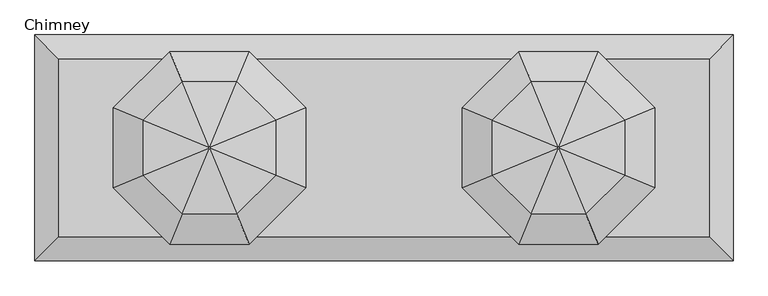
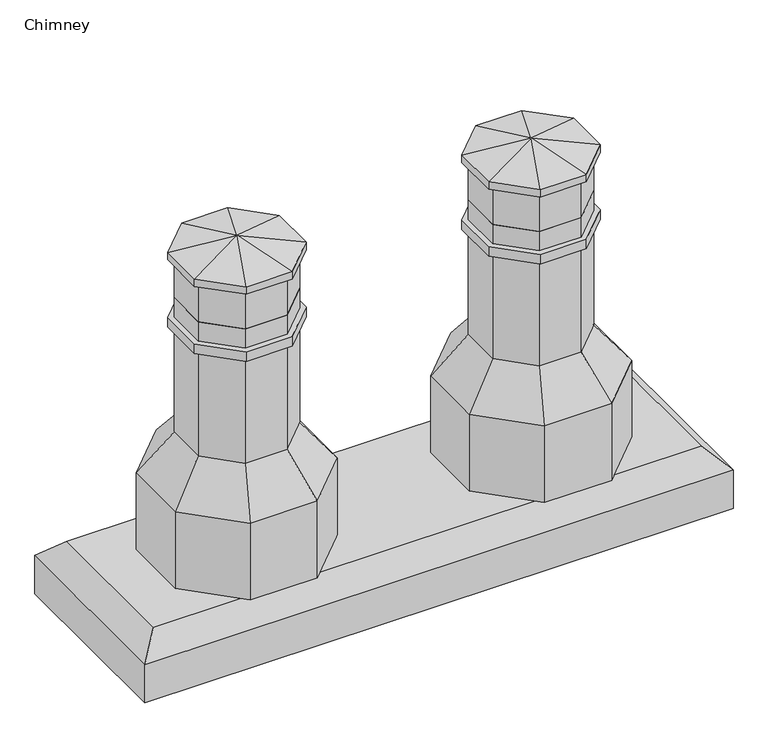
"""IFC4 building model written with IfcOpenShell, lengths in millimetres: proxy geometry, Chimney : 2 Chimney Pots."""

import ifcopenshell
import ifcopenshell.guid

model = None  # the IFC model being written
_history = None  # IfcOwnerHistory: only IFC2X3 demands one
_inside = {}  # id of a spatial element -> (the spatial element, [elements in it])
_under = {}  # id of a project, library or spatial element -> (it, [spatial elements below it])
_declared = {}  # id of a project -> (the project, [libraries it declares])
_typed = {}  # id of a type object -> (the type object, [elements of that type])
_made_of = {}  # id of a material, layer set ... -> (it, [elements and type objects made of it])


def new_model(schema):
    """Start an empty IFC model of exactly this schema.

    Asked for "IFC4X3", IfcOpenShell would pick the latest addendum, in which some entities
    have other attributes; the version numbers below select the first issue.
    IFC2X3 requires an IfcOwnerHistory on every rooted entity: one is made here for all.
    """
    global model, _history
    if schema == "IFC4X3":
        model = ifcopenshell.file(schema_version=(4, 3, 0, 0))
    else:
        model = ifcopenshell.file(schema=schema)
    _inside.clear()
    _under.clear()
    _declared.clear()
    _typed.clear()
    _made_of.clear()
    _history = None
    if model.schema == "IFC2X3":
        org = make("IfcOrganization", Name="unknown")
        user = make(
            "IfcPersonAndOrganization",
            ThePerson=make("IfcPerson", FamilyName="unknown"),
            TheOrganization=org,
        )
        app = make(
            "IfcApplication",
            ApplicationDeveloper=org,
            Version="unknown",
            ApplicationFullName="unknown",
            ApplicationIdentifier="unknown",
        )
        _history = make(
            "IfcOwnerHistory",
            OwningUser=user,
            OwningApplication=app,
            ChangeAction="ADDED",
            CreationDate=0,
        )
    return model


def make(cls, **values):
    """One entity of the class cls with the attributes given. An attribute that is None is left unset."""
    return model.create_entity(
        cls, **{name: value for name, value in values.items() if value is not None}
    )


def rooted(cls, **values):
    """An entity with a GlobalId (a new one), such as an element, a storey or a relation."""
    return make(cls, GlobalId=ifcopenshell.guid.new(), OwnerHistory=_history, **values)


def si_unit(unit_type, name, prefix=None):
    """IfcSIUnit, for example si_unit("LENGTHUNIT", "METRE", prefix="MILLI")."""
    return make("IfcSIUnit", UnitType=unit_type, Prefix=prefix, Name=name)


def assignment(units):
    """IfcUnitAssignment: the units of a project."""
    return None if units is None else make("IfcUnitAssignment", Units=units)


def point(xyz):
    """IfcCartesianPoint."""
    return None if xyz is None else make("IfcCartesianPoint", Coordinates=xyz)


def direction(xyz):
    """IfcDirection."""
    return None if xyz is None else make("IfcDirection", DirectionRatios=xyz)


def frame(location, z_axis=None, x_axis=None):
    """IfcAxis2Placement3D, a coordinate frame: its origin and axes. An axis left out is left unset."""
    return make(
        "IfcAxis2Placement3D",
        Location=point(location),
        Axis=direction(z_axis),
        RefDirection=direction(x_axis),
    )


def origin():
    """The frame at (0, 0, 0) with its axes left unset."""
    return frame((0.0, 0.0, 0.0))


def place(relative_to, where):
    """IfcLocalPlacement: puts the frame where relative to a parent placement (None: the world)."""
    return make(
        "IfcLocalPlacement", PlacementRelTo=relative_to, RelativePlacement=where
    )


def context(
    kind, dimensions, precision=None, world=None, true_north=None, identifier=None
):
    """IfcGeometricRepresentationContext, for example the 3D "Model" context."""
    return make(
        "IfcGeometricRepresentationContext",
        ContextIdentifier=identifier,
        ContextType=kind,
        CoordinateSpaceDimension=dimensions,
        Precision=precision,
        WorldCoordinateSystem=world,
        TrueNorth=true_north,
    )


def project(units=None, contexts=None):
    """IfcProject with its units and contexts."""
    return rooted(
        "IfcProject",
        Name="project",
        RepresentationContexts=contexts,
        UnitsInContext=assignment(units),
    )


def spatial(cls, under=None, at=None, **own):
    """A site, building, storey or space (cls), placed at a placement, below another one or the project."""
    s = rooted(cls, ObjectPlacement=at, **own)
    if under is not None:
        _under.setdefault(under.id(), (under, []))[1].append(s)
    return s


def polyline(points):
    """IfcPolyline through the points."""
    return make("IfcPolyline", Points=[point(p) for p in points])


def circle_curve(where, radius):
    """IfcCircle in the frame where."""
    return make("IfcCircle", Position=where, Radius=radius)


def outline(outer, holes=None, kind="AREA"):
    """IfcArbitraryClosedProfileDef: a profile drawn as a closed curve; with holes, ...WithVoids."""
    if holes is None:
        return make("IfcArbitraryClosedProfileDef", ProfileType=kind, OuterCurve=outer)
    return make(
        "IfcArbitraryProfileDefWithVoids",
        ProfileType=kind,
        OuterCurve=outer,
        InnerCurves=holes,
    )


def extrude(swept, where, along, depth):
    """IfcExtrudedAreaSolid: the profile swept, set in the frame where, extruded along a direction by depth."""
    return make(
        "IfcExtrudedAreaSolid",
        SweptArea=swept,
        Position=where,
        ExtrudedDirection=direction(along),
        Depth=depth,
    )


def faces_of(points, faces, orient=None, outer=None):
    """IfcFace entities. A face is a list of loops; a loop is a list of indices into points, from 0.

    orient and outer hold one flag for each loop. By default every Orientation is true, the
    first loop of a face is its IfcFaceOuterBound and the others are IfcFaceBound.
    """
    made = []
    for i, loops in enumerate(faces):
        bounds = []
        for j, loop in enumerate(loops):
            is_outer = j == 0 if outer is None else outer[i][j]
            bounds.append(
                make(
                    "IfcFaceOuterBound" if is_outer else "IfcFaceBound",
                    Bound=make("IfcPolyLoop", Polygon=[points[k] for k in loop]),
                    Orientation=True if orient is None else orient[i][j],
                )
            )
        made.append(make("IfcFace", Bounds=bounds))
    return made


def faceted_brep(points, faces, orient=None, outer=None, voids=None):
    """IfcFacetedBrep: a solid bounded by flat faces; with voids (closed shells), ...WithVoids."""
    shared = [point(p) for p in points]
    hull = make("IfcClosedShell", CfsFaces=faces_of(shared, faces, orient, outer))
    if voids is None:
        return make("IfcFacetedBrep", Outer=hull)
    return make(
        "IfcFacetedBrepWithVoids",
        Outer=hull,
        Voids=[
            make(cls, CfsFaces=faces_of(shared, fs, o, b)) for cls, fs, o, b in voids
        ],
    )


def shape(context_of_items, identifier, shape_type, items):
    """IfcShapeRepresentation: the items that make up one representation, for example the "Body"."""
    return make(
        "IfcShapeRepresentation",
        ContextOfItems=context_of_items,
        RepresentationIdentifier=identifier,
        RepresentationType=shape_type,
        Items=items,
    )


def source(mapping_origin, context_of_items, identifier, shape_type, items):
    """IfcRepresentationMap: a shape defined once, which mapped items show again and again."""
    return make(
        "IfcRepresentationMap",
        MappingOrigin=mapping_origin,
        MappedRepresentation=shape(context_of_items, identifier, shape_type, items),
    )


def transform(
    local_origin,
    x_axis=None,
    y_axis=None,
    z_axis=None,
    scale=None,
    scale2=None,
    scale3=None,
    uniform=True,
):
    """IfcCartesianTransformationOperator3D, or its non-uniform kind. x_axis, y_axis, z_axis: its Axis1, 2, 3."""
    if uniform:
        return make(
            "IfcCartesianTransformationOperator3D",
            Axis1=direction(x_axis),
            Axis2=direction(y_axis),
            LocalOrigin=point(local_origin),
            Scale=scale,
            Axis3=direction(z_axis),
        )
    return make(
        "IfcCartesianTransformationOperator3DnonUniform",
        Axis1=direction(x_axis),
        Axis2=direction(y_axis),
        LocalOrigin=point(local_origin),
        Scale=scale,
        Axis3=direction(z_axis),
        Scale2=scale2,
        Scale3=scale3,
    )


def mapped(mapping_source, mapping_target):
    """IfcMappedItem: shows the shape of a source again, moved by a transform."""
    return make(
        "IfcMappedItem", MappingSource=mapping_source, MappingTarget=mapping_target
    )


def made_of(thing, what):
    """Note that an element or type object is made of a material, layer set ...; save() writes the relation."""
    if what is not None:
        _made_of.setdefault(what.id(), (what, []))[1].append(thing)
    return thing


def element(
    cls,
    number,
    at=None,
    inside=None,
    cuts=None,
    type_object=None,
    material=None,
    context=None,
    identifier="Body",
    shape_type=None,
    held_by="IfcProductDefinitionShape",
    body=None,
    shapes=None,
    **own,
):
    """One element of the class cls, such as IfcWall. Its Tag is "e" and its number.

    at: its placement. inside: the storey or other place that contains it. cuts: it is an
    opening in that element (IfcRelVoidsElement). A single representation is given by context,
    identifier, shape_type and body (its items); several are given by shapes. held_by: the class
    of the entity that holds the representations. save() writes the other relations.
    """
    e = rooted(cls, Tag="e%d" % number, ObjectPlacement=at, **own)
    if body is not None:
        shapes = [shape(context, identifier, shape_type, body)]
    if shapes is not None:
        e.Representation = make(held_by, Representations=shapes)
    if inside is not None:
        _inside.setdefault(inside.id(), (inside, []))[1].append(e)
    if cuts is not None:
        rooted(
            "IfcRelVoidsElement", RelatingBuildingElement=cuts, RelatedOpeningElement=e
        )
    if type_object is not None:
        _typed.setdefault(type_object.id(), (type_object, []))[1].append(e)
    return made_of(e, material)


def aggregate(whole, parts):
    """IfcRelAggregates: a whole, such as a stair, and the parts it consists of."""
    return rooted("IfcRelAggregates", RelatingObject=whole, RelatedObjects=parts)


def save(model, path):
    """Write the relations noted so far, then the file.

    IfcRelAggregates (storeys below a building ...), IfcRelContainedInSpatialStructure (elements
    in a storey), IfcRelDefinesByType, IfcRelAssociatesMaterial and IfcRelDeclares: one each for
    every whole, place, type object, material and project.
    """
    for whole, parts in _under.values():
        aggregate(whole, parts)
    for where, things in _inside.values():
        rooted(
            "IfcRelContainedInSpatialStructure",
            RelatedElements=things,
            RelatingStructure=where,
        )
    for kind, things in _typed.values():
        rooted("IfcRelDefinesByType", RelatedObjects=things, RelatingType=kind)
    for what, things in _made_of.values():
        rooted("IfcRelAssociatesMaterial", RelatedObjects=things, RelatingMaterial=what)
    for by, libraries in _declared.values():
        rooted("IfcRelDeclares", RelatingContext=by, RelatedDefinitions=libraries)
    model.write(path)


def plane_surface(at):
    """IfcPlane: the flat surface through the origin of the frame at, square to its z axis."""
    return make("IfcPlane", Position=at)


def revolved_surface(curve, axis_point, axis_direction):
    """IfcSurfaceOfRevolution: the curve turned about the line through axis_point along axis_direction."""
    return make(
        "IfcSurfaceOfRevolution",
        SweptCurve=make("IfcArbitraryOpenProfileDef", ProfileType="CURVE", Curve=curve),
        AxisPosition=make("IfcAxis1Placement", Location=point(axis_point), Axis=direction(axis_direction)),
    )


def advanced_brep(points, edges, surfaces, faces):
    """IfcAdvancedBrep: a solid bounded by faces that lie on surfaces and meet in shared edges.

    An edge is (start, end): straight between two places in points (the first is 0);
    or (start, end, curve); or (start, end, curve, False) where it runs against its curve.
    A face is (place in surfaces, loops), or (place, loops, False) where it looks against
    its surface's normal. A loop lists edges by number (the first is 1), with a minus sign
    where the edge is run from its end to its start. The first loop is the outer one.
    """
    corners = [point(p) for p in points]
    vertices = [make("IfcVertexPoint", VertexGeometry=c) for c in corners]
    made = []
    for start, end, *more in edges:
        made.append(
            make(
                "IfcEdgeCurve",
                EdgeStart=vertices[start],
                EdgeEnd=vertices[end],
                EdgeGeometry=more[0] if more else make("IfcPolyline", Points=[corners[start], corners[end]]),
                SameSense=more[1] if len(more) > 1 else True,
            )
        )
    hull = []
    for where, loops, *sense in faces:
        bounds = []
        for j, loop in enumerate(loops):
            ring = [make("IfcOrientedEdge", EdgeElement=made[abs(k) - 1], Orientation=k > 0) for k in loop]
            bounds.append(
                make(
                    "IfcFaceOuterBound" if j == 0 else "IfcFaceBound",
                    Bound=make("IfcEdgeLoop", EdgeList=ring),
                    Orientation=True,
                )
            )
        hull.append(make("IfcAdvancedFace", Bounds=bounds, FaceSurface=surfaces[where], SameSense=sense[0] if sense else True))
    return make("IfcAdvancedBrep", Outer=make("IfcClosedShell", CfsFaces=hull))


def chimney_2123a7b1(model_context):
    return source(origin(), model_context, "Body", "SolidModel", [
        faceted_brep([(367.6420855, -1.5883461, 965.2), (368.9579145, -1.5883461, 965.2), (369.8883461, -0.6579145, 965.2), (369.8883461, 0.6579145, 965.2), (368.9579145, 1.5883461, 965.2), (367.6420855, 1.5883461, 965.2), (366.7116539, 0.6579145, 965.2), (366.7116539, -0.6579145, 965.2), (310.4343653, -139.7, 933.45), (426.1656347, -139.7, 933.45), (508.0, -57.8656347, 933.45), (508.0, 57.8656347, 933.45), (426.1656347, 139.7, 933.45), (310.4343653, 139.7, 933.45), (228.6, 57.8656347, 933.45), (228.6, -57.8656347, 933.45), (228.6, 57.8656347, 914.4), (310.4343653, 139.7, 914.4), (426.1656347, 139.7, 914.4), (508.0, 57.8656347, 914.4), (508.0, -57.8656347, 914.4), (426.1656347, -139.7, 914.4), (310.4343653, -139.7, 914.4), (228.6, -57.8656347, 914.4)], [[[0, 1, 2, 3, 4, 5, 6, 7]], [[1, 0, 8, 9]], [[2, 1, 9, 10]], [[3, 2, 10, 11]], [[4, 3, 11, 12]], [[5, 4, 12, 13]], [[6, 5, 13, 14]], [[7, 6, 14, 15]], [[0, 7, 15, 8]], [[16, 17, 18, 19, 20, 21, 22, 23]], [[16, 23, 15, 14]], [[23, 22, 8, 15]], [[22, 21, 9, 8]], [[21, 20, 10, 9]], [[20, 19, 11, 10]], [[19, 18, 12, 11]], [[18, 17, 13, 12]], [[17, 16, 14, 13]]]),
        advanced_brep(
        [(165.1, 84.1681959, 152.4), (284.1318041, 203.2, 152.4), (452.4681959, 203.2, 152.4), (571.5, 84.1681959, 152.4), (571.5, -84.1681959, 152.4), (452.4681959, -203.2, 152.4), (284.1318041, -203.2, 152.4), (165.1, -84.1681959, 152.4), (247.65, 0.0, 152.4), (488.95, 0.0, 152.4), (165.1, -84.1681959, 355.6), (165.1, 84.1681959, 355.6), (284.1318041, -203.2, 355.6), (452.4681959, -203.2, 355.6), (571.5, -84.1681959, 355.6), (571.5, 84.1681959, 355.6), (452.4681959, 203.2, 355.6), (284.1318041, 203.2, 355.6), (488.95, 0.0, 812.8), (247.65, 0.0, 812.8), (241.3, -52.6051224, 457.2), (241.3, 52.6051224, 457.2), (315.6948776, -127.0, 457.2), (420.9051224, -127.0, 457.2), (495.3, -52.6051224, 457.2), (495.3, 52.6051224, 457.2), (420.9051224, 127.0, 457.2), (315.6948776, 127.0, 457.2), (241.3, 52.6051224, 812.8), (241.3, -52.6051224, 812.8), (315.6948776, -127.0, 812.8), (420.9051224, -127.0, 812.8), (495.3, -52.6051224, 812.8), (495.3, 52.6051224, 812.8), (420.9051224, 127.0, 812.8), (315.6948776, 127.0, 812.8), (241.3, -52.6051224, 736.6), (241.3, 52.6051224, 736.6), (241.3, 52.6051224, 762.0), (241.3, -52.6051224, 762.0), (315.6948776, -127.0, 736.6), (315.6948776, -127.0, 762.0), (420.9051224, -127.0, 736.6), (420.9051224, -127.0, 762.0), (495.3, -52.6051224, 736.6), (495.3, -52.6051224, 762.0), (495.3, 52.6051224, 736.6), (495.3, 52.6051224, 762.0), (420.9051224, 127.0, 736.6), (420.9051224, 127.0, 762.0), (315.6948776, 127.0, 736.6), (315.6948776, 127.0, 762.0), (228.6, 57.8656347, 762.0), (228.6, -57.8656347, 762.0), (310.4343653, -139.7, 762.0), (426.1656347, -139.7, 762.0), (508.0, -57.8656347, 762.0), (508.0, 57.8656347, 762.0), (426.1656347, 139.7, 762.0), (310.4343653, 139.7, 762.0), (228.6, 57.8656347, 736.6), (310.4343653, 139.7, 736.6), (426.1656347, 139.7, 736.6), (508.0, 57.8656347, 736.6), (508.0, -57.8656347, 736.6), (426.1656347, -139.7, 736.6), (310.4343653, -139.7, 736.6), (228.6, -57.8656347, 736.6)],
        [
            (0, 1),
            (1, 2),
            (2, 3),
            (3, 4),
            (4, 5),
            (5, 6),
            (6, 7),
            (7, 0),
            (8, 9, circle_curve(frame((368.3, 0.0, 152.4), z_axis=(0.0, 0.0, 1.0), x_axis=(1.0, 0.0, 0.0)), 120.65)),
            (9, 8, circle_curve(frame((368.3, 0.0, 152.4), z_axis=(0.0, 0.0, 1.0), x_axis=(1.0, 0.0, 0.0)), 120.65)),
            (7, 10),
            (10, 11),
            (11, 0),
            (6, 12),
            (12, 10),
            (5, 13),
            (13, 12),
            (4, 14),
            (14, 13),
            (3, 15),
            (15, 14),
            (2, 16),
            (16, 15),
            (1, 17),
            (17, 16),
            (11, 17),
            (18, 9),
            (8, 19),
            (19, 18, circle_curve(frame((368.3, 0.0, 812.8), z_axis=(0.0, 0.0, 1.0), x_axis=(1.0, 0.0, 0.0)), 120.65)),
            (18, 19, circle_curve(frame((368.3, 0.0, 812.8), z_axis=(0.0, 0.0, 1.0), x_axis=(1.0, 0.0, 0.0)), 120.65)),
            (10, 20),
            (20, 21),
            (21, 11),
            (12, 22),
            (22, 20),
            (13, 23),
            (23, 22),
            (14, 24),
            (24, 23),
            (15, 25),
            (25, 24),
            (16, 26),
            (26, 25),
            (17, 27),
            (27, 26),
            (21, 27),
            (28, 29),
            (29, 30),
            (30, 31),
            (31, 32),
            (32, 33),
            (33, 34),
            (34, 35),
            (35, 28),
            (20, 36),
            (36, 37),
            (37, 21),
            (28, 38),
            (38, 39),
            (39, 29),
            (22, 40),
            (40, 36),
            (39, 41),
            (41, 30),
            (23, 42),
            (42, 40),
            (41, 43),
            (43, 31),
            (24, 44),
            (44, 42),
            (43, 45),
            (45, 32),
            (25, 46),
            (46, 44),
            (45, 47),
            (47, 33),
            (26, 48),
            (48, 46),
            (47, 49),
            (49, 34),
            (27, 50),
            (50, 48),
            (49, 51),
            (51, 35),
            (37, 50),
            (51, 38),
            (52, 53),
            (53, 54),
            (54, 55),
            (55, 56),
            (56, 57),
            (57, 58),
            (58, 59),
            (59, 52),
            (60, 61),
            (61, 62),
            (62, 63),
            (63, 64),
            (64, 65),
            (65, 66),
            (66, 67),
            (67, 60),
            (52, 60),
            (67, 53),
            (66, 54),
            (65, 55),
            (64, 56),
            (63, 57),
            (62, 58),
            (61, 59),
        ],
        [
            plane_surface(frame((165.1, 84.1681959, 152.4), z_axis=(0.0, 0.0, -1.0), x_axis=(0.0, 1.0, 0.0))),
            plane_surface(frame((165.1, 84.1681959, 355.6), z_axis=(-1.0, 0.0, 0.0), x_axis=(0.0, 0.0, -1.0))),
            plane_surface(frame((165.1, -84.1681959, 355.6), z_axis=(-0.7071067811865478, -0.7071067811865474, 0.0), x_axis=(0.0, 0.0, -1.0))),
            plane_surface(frame((284.1318041, -203.2, 355.6), z_axis=(0.0, -1.0, 0.0), x_axis=(0.0, 0.0, -1.0))),
            plane_surface(frame((452.4681959, -203.2, 355.6), z_axis=(0.707106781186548, -0.7071067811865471, 0.0), x_axis=(0.0, 0.0, -1.0))),
            plane_surface(frame((571.5, -84.1681959, 355.6), z_axis=(1.0, 0.0, 0.0), x_axis=(0.0, 0.0, -1.0))),
            plane_surface(frame((571.5, 84.1681959, 355.6), z_axis=(0.7071067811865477, 0.7071067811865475, 0.0), x_axis=(0.0, 0.0, -1.0))),
            plane_surface(frame((452.4681959, 203.2, 355.6), z_axis=(0.0, 1.0, 0.0), x_axis=(0.0, 0.0, -1.0))),
            plane_surface(frame((284.1318041, 203.2, 355.6), z_axis=(-0.707106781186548, 0.7071067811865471, 0.0), x_axis=(0.0, 0.0, -1.0))),
            revolved_surface(polyline([(488.95000000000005, 0.0, 812.8), (488.95000000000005, 0.0, 152.4)]), (368.3, 0.0, 152.4), (0.0, 0.0, 1.0)),
            plane_surface(frame((165.1, 0.0, 355.6), z_axis=(-0.8000000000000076, 0.0, 0.59999999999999), x_axis=(0.0, -1.0, 0.0))),
            plane_surface(frame((224.6159021, -143.6840979, 355.6), z_axis=(-0.5656854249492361, -0.5656854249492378, 0.6000000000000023), x_axis=(0.7071067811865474, -0.7071067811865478, 0.0))),
            plane_surface(frame((368.3, -203.2, 355.6), z_axis=(0.0, -0.7999999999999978, 0.600000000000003), x_axis=(1.0, 0.0, 0.0))),
            plane_surface(frame((511.9840979, -143.6840979, 355.6), z_axis=(0.5656854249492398, -0.565685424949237, 0.5999999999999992), x_axis=(0.707106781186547, 0.707106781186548, 0.0))),
            plane_surface(frame((571.5, 0.0, 355.6), z_axis=(0.7999999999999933, 0.0, 0.600000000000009), x_axis=(0.0, 1.0, 0.0))),
            plane_surface(frame((511.9840979, 143.6840979, 355.6), z_axis=(0.5656854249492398, 0.5656854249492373, 0.5999999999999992), x_axis=(-0.7071067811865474, 0.7071067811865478, 0.0))),
            plane_surface(frame((368.3, 203.2, 355.6), z_axis=(0.0, 0.800000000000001, 0.5999999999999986), x_axis=(-1.0, 0.0, 0.0))),
            plane_surface(frame((224.6159021, 143.6840979, 355.6), z_axis=(-0.5656854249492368, 0.5656854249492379, 0.6000000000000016), x_axis=(-0.707106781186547, -0.7071067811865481, 0.0))),
            plane_surface(frame((241.3, 52.6051224, 812.8), z_axis=(0.0, 0.0, 1.0), x_axis=(0.0, -1.0, 0.0))),
            plane_surface(frame((241.3, 52.6051224, 812.8), z_axis=(-1.0, 0.0, 0.0), x_axis=(0.0, 0.0, -1.0))),
            plane_surface(frame((241.3, -52.6051224, 812.8), z_axis=(-0.7071067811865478, -0.7071067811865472, 0.0), x_axis=(0.0, 0.0, -1.0))),
            plane_surface(frame((315.6948776, -127.0, 812.8), z_axis=(0.0, -1.0, 0.0), x_axis=(0.0, 0.0, -1.0))),
            plane_surface(frame((420.9051224, -127.0, 812.8), z_axis=(0.707106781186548, -0.707106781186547, 0.0), x_axis=(0.0, 0.0, -1.0))),
            plane_surface(frame((495.3, -52.6051224, 812.8), z_axis=(1.0, 0.0, 0.0), x_axis=(0.0, 0.0, -1.0))),
            plane_surface(frame((495.3, 52.6051224, 812.8), z_axis=(0.7071067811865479, 0.7071067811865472, 0.0), x_axis=(0.0, 0.0, -1.0))),
            plane_surface(frame((420.9051224, 127.0, 812.8), z_axis=(0.0, 1.0, 0.0), x_axis=(0.0, 0.0, -1.0))),
            plane_surface(frame((315.6948776, 127.0, 812.8), z_axis=(-0.707106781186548, 0.7071067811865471, 0.0), x_axis=(0.0, 0.0, -1.0))),
            plane_surface(frame((228.6, 57.8656347, 762.0), z_axis=(0.0, 0.0, 1.0), x_axis=(0.0, -1.0, 0.0))),
            plane_surface(frame((228.6, 57.8656347, 736.6), z_axis=(0.0, 0.0, -1.0), x_axis=(0.0, 1.0, 0.0))),
            plane_surface(frame((228.6, 57.8656347, 762.0), z_axis=(-1.0, 0.0, 0.0), x_axis=(0.0, 0.0, -1.0))),
            plane_surface(frame((228.6, -57.8656347, 762.0), z_axis=(-0.7071067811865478, -0.7071067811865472, 0.0), x_axis=(0.0, 0.0, -1.0))),
            plane_surface(frame((310.4343653, -139.7, 762.0), z_axis=(0.0, -1.0, 0.0), x_axis=(0.0, 0.0, -1.0))),
            plane_surface(frame((426.1656347, -139.7, 762.0), z_axis=(0.707106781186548, -0.7071067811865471, 0.0), x_axis=(0.0, 0.0, -1.0))),
            plane_surface(frame((508.0, -57.8656347, 762.0), z_axis=(1.0, 0.0, 0.0), x_axis=(0.0, 0.0, -1.0))),
            plane_surface(frame((508.0, 57.8656347, 762.0), z_axis=(0.7071067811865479, 0.7071067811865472, 0.0), x_axis=(0.0, 0.0, -1.0))),
            plane_surface(frame((426.1656347, 139.7, 762.0), z_axis=(0.0, 1.0, 0.0), x_axis=(0.0, 0.0, -1.0))),
            plane_surface(frame((310.4343653, 139.7, 762.0), z_axis=(-0.7071067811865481, 0.7071067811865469, 0.0), x_axis=(0.0, 0.0, -1.0))),
        ],
        [
            (0, [[1, 2, 3, 4, 5, 6, 7, 8], [9, 10]]),
            (1, [[-8, 11, 12, 13]]),
            (2, [[-7, 14, 15, -11]]),
            (3, [[-6, 16, 17, -14]]),
            (4, [[-5, 18, 19, -16]]),
            (5, [[-4, 20, 21, -18]]),
            (6, [[-3, 22, 23, -20]]),
            (7, [[-2, 24, 25, -22]]),
            (8, [[-1, -13, 26, -24]]),
            (9, [[27, -9, 28, 29]]),
            (9, [[-27, 30, -28, -10]]),
            (10, [[31, 32, 33, -12]]),
            (11, [[-31, -15, 34, 35]]),
            (12, [[-34, -17, 36, 37]]),
            (13, [[-36, -19, 38, 39]]),
            (14, [[-38, -21, 40, 41]]),
            (15, [[-40, -23, 42, 43]]),
            (16, [[-42, -25, 44, 45]]),
            (17, [[-33, 46, -44, -26]]),
            (18, [[47, 48, 49, 50, 51, 52, 53, 54], [-29, -30]]),
            (19, [[-32, 55, 56, 57]]),
            (19, [[-47, 58, 59, 60]]),
            (20, [[-35, 61, 62, -55]]),
            (20, [[-48, -60, 63, 64]]),
            (21, [[-37, 65, 66, -61]]),
            (21, [[-49, -64, 67, 68]]),
            (22, [[-39, 69, 70, -65]]),
            (22, [[-50, -68, 71, 72]]),
            (23, [[-41, 73, 74, -69]]),
            (23, [[-51, -72, 75, 76]]),
            (24, [[-43, 77, 78, -73]]),
            (24, [[-52, -76, 79, 80]]),
            (25, [[-45, 81, 82, -77]]),
            (25, [[-53, -80, 83, 84]]),
            (26, [[-46, -57, 85, -81]]),
            (26, [[-54, -84, 86, -58]]),
            (27, [[87, 88, 89, 90, 91, 92, 93, 94], [-59, -86, -83, -79, -75, -71, -67, -63]]),
            (28, [[95, 96, 97, 98, 99, 100, 101, 102], [-56, -62, -66, -70, -74, -78, -82, -85]]),
            (29, [[-87, 103, -102, 104]]),
            (30, [[-88, -104, -101, 105]]),
            (31, [[-89, -105, -100, 106]]),
            (32, [[-90, -106, -99, 107]]),
            (33, [[-91, -107, -98, 108]]),
            (34, [[-92, -108, -97, 109]]),
            (35, [[-93, -109, -96, 110]]),
            (36, [[-94, -110, -95, -103]]),
        ],
    ),
        extrude(outline(polyline([(420.9051224, 127.0), (495.3, 52.6051224), (495.3, -52.6051224), (420.9051224, -127.0), (315.6948776, -127.0), (241.3, -52.6051224), (241.3, 52.6051224), (315.6948776, 127.0), (420.9051224, 127.0)]), holes=[polyline([(415.6446102, 114.3), (320.9553898, 114.3), (254.0, 47.3446102), (254.0, -47.3446102), (320.9553898, -114.3), (415.6446102, -114.3), (482.6, -47.3446102), (482.6, 47.3446102), (415.6446102, 114.3)])]), frame((0.0, 0.0, 812.8), z_axis=(0.0, 0.0, 1.0), x_axis=(1.0, 0.0, 0.0)), (0.0, 0.0, 1.0), 101.6),
        faceted_brep([(-368.9579145, -1.5883461, 965.2), (-367.6420855, -1.5883461, 965.2), (-366.7116539, -0.6579145, 965.2), (-366.7116539, 0.6579145, 965.2), (-367.6420855, 1.5883461, 965.2), (-368.9579145, 1.5883461, 965.2), (-369.8883461, 0.6579145, 965.2), (-369.8883461, -0.6579145, 965.2), (-426.1656347, -139.7, 933.45), (-310.4343653, -139.7, 933.45), (-228.6, -57.8656347, 933.45), (-228.6, 57.8656347, 933.45), (-310.4343653, 139.7, 933.45), (-426.1656347, 139.7, 933.45), (-508.0, 57.8656347, 933.45), (-508.0, -57.8656347, 933.45), (-508.0, 57.8656347, 914.4), (-426.1656347, 139.7, 914.4), (-310.4343653, 139.7, 914.4), (-228.6, 57.8656347, 914.4), (-228.6, -57.8656347, 914.4), (-310.4343653, -139.7, 914.4), (-426.1656347, -139.7, 914.4), (-508.0, -57.8656347, 914.4)], [[[0, 1, 2, 3, 4, 5, 6, 7]], [[1, 0, 8, 9]], [[2, 1, 9, 10]], [[3, 2, 10, 11]], [[4, 3, 11, 12]], [[5, 4, 12, 13]], [[6, 5, 13, 14]], [[7, 6, 14, 15]], [[0, 7, 15, 8]], [[16, 17, 18, 19, 20, 21, 22, 23]], [[16, 23, 15, 14]], [[23, 22, 8, 15]], [[22, 21, 9, 8]], [[21, 20, 10, 9]], [[20, 19, 11, 10]], [[19, 18, 12, 11]], [[18, 17, 13, 12]], [[17, 16, 14, 13]]]),
        advanced_brep(
        [(-571.5, 84.1681959, 152.4), (-452.4681959, 203.2, 152.4), (-284.1318041, 203.2, 152.4), (-165.1, 84.1681959, 152.4), (-165.1, -84.1681959, 152.4), (-284.1318041, -203.2, 152.4), (-452.4681959, -203.2, 152.4), (-571.5, -84.1681959, 152.4), (-488.95, 0.0, 152.4), (-247.65, 0.0, 152.4), (-571.5, -84.1681959, 355.6), (-571.5, 84.1681959, 355.6), (-452.4681959, -203.2, 355.6), (-284.1318041, -203.2, 355.6), (-165.1, -84.1681959, 355.6), (-165.1, 84.1681959, 355.6), (-284.1318041, 203.2, 355.6), (-452.4681959, 203.2, 355.6), (-247.65, 0.0, 812.8), (-488.95, 0.0, 812.8), (-495.3, -52.6051224, 457.2), (-495.3, 52.6051224, 457.2), (-420.9051224, -127.0, 457.2), (-315.6948776, -127.0, 457.2), (-241.3, -52.6051224, 457.2), (-241.3, 52.6051224, 457.2), (-315.6948776, 127.0, 457.2), (-420.9051224, 127.0, 457.2), (-495.3, 52.6051224, 812.8), (-495.3, -52.6051224, 812.8), (-420.9051224, -127.0, 812.8), (-315.6948776, -127.0, 812.8), (-241.3, -52.6051224, 812.8), (-241.3, 52.6051224, 812.8), (-315.6948776, 127.0, 812.8), (-420.9051224, 127.0, 812.8), (-495.3, -52.6051224, 736.6), (-495.3, 52.6051224, 736.6), (-495.3, 52.6051224, 762.0), (-495.3, -52.6051224, 762.0), (-420.9051224, -127.0, 736.6), (-420.9051224, -127.0, 762.0), (-315.6948776, -127.0, 736.6), (-315.6948776, -127.0, 762.0), (-241.3, -52.6051224, 736.6), (-241.3, -52.6051224, 762.0), (-241.3, 52.6051224, 736.6), (-241.3, 52.6051224, 762.0), (-315.6948776, 127.0, 736.6), (-315.6948776, 127.0, 762.0), (-420.9051224, 127.0, 736.6), (-420.9051224, 127.0, 762.0), (-508.0, 57.8656347, 762.0), (-508.0, -57.8656347, 762.0), (-426.1656347, -139.7, 762.0), (-310.4343653, -139.7, 762.0), (-228.6, -57.8656347, 762.0), (-228.6, 57.8656347, 762.0), (-310.4343653, 139.7, 762.0), (-426.1656347, 139.7, 762.0), (-508.0, 57.8656347, 736.6), (-426.1656347, 139.7, 736.6), (-310.4343653, 139.7, 736.6), (-228.6, 57.8656347, 736.6), (-228.6, -57.8656347, 736.6), (-310.4343653, -139.7, 736.6), (-426.1656347, -139.7, 736.6), (-508.0, -57.8656347, 736.6)],
        [
            (0, 1),
            (1, 2),
            (2, 3),
            (3, 4),
            (4, 5),
            (5, 6),
            (6, 7),
            (7, 0),
            (8, 9, circle_curve(frame((-368.3, 0.0, 152.4), z_axis=(0.0, 0.0, 1.0), x_axis=(1.0, 0.0, 0.0)), 120.65)),
            (9, 8, circle_curve(frame((-368.3, 0.0, 152.4), z_axis=(0.0, 0.0, 1.0), x_axis=(1.0, 0.0, 0.0)), 120.65)),
            (7, 10),
            (10, 11),
            (11, 0),
            (6, 12),
            (12, 10),
            (5, 13),
            (13, 12),
            (4, 14),
            (14, 13),
            (3, 15),
            (15, 14),
            (2, 16),
            (16, 15),
            (1, 17),
            (17, 16),
            (11, 17),
            (18, 9),
            (8, 19),
            (19, 18, circle_curve(frame((-368.3, 0.0, 812.8), z_axis=(0.0, 0.0, 1.0), x_axis=(1.0, 0.0, 0.0)), 120.65)),
            (18, 19, circle_curve(frame((-368.3, 0.0, 812.8), z_axis=(0.0, 0.0, 1.0), x_axis=(1.0, 0.0, 0.0)), 120.65)),
            (10, 20),
            (20, 21),
            (21, 11),
            (12, 22),
            (22, 20),
            (13, 23),
            (23, 22),
            (14, 24),
            (24, 23),
            (15, 25),
            (25, 24),
            (16, 26),
            (26, 25),
            (17, 27),
            (27, 26),
            (21, 27),
            (28, 29),
            (29, 30),
            (30, 31),
            (31, 32),
            (32, 33),
            (33, 34),
            (34, 35),
            (35, 28),
            (20, 36),
            (36, 37),
            (37, 21),
            (28, 38),
            (38, 39),
            (39, 29),
            (22, 40),
            (40, 36),
            (39, 41),
            (41, 30),
            (23, 42),
            (42, 40),
            (41, 43),
            (43, 31),
            (24, 44),
            (44, 42),
            (43, 45),
            (45, 32),
            (25, 46),
            (46, 44),
            (45, 47),
            (47, 33),
            (26, 48),
            (48, 46),
            (47, 49),
            (49, 34),
            (27, 50),
            (50, 48),
            (49, 51),
            (51, 35),
            (37, 50),
            (51, 38),
            (52, 53),
            (53, 54),
            (54, 55),
            (55, 56),
            (56, 57),
            (57, 58),
            (58, 59),
            (59, 52),
            (60, 61),
            (61, 62),
            (62, 63),
            (63, 64),
            (64, 65),
            (65, 66),
            (66, 67),
            (67, 60),
            (52, 60),
            (67, 53),
            (66, 54),
            (65, 55),
            (64, 56),
            (63, 57),
            (62, 58),
            (61, 59),
        ],
        [
            plane_surface(frame((-571.5, 84.1681959, 152.4), z_axis=(0.0, 0.0, -1.0), x_axis=(0.0, 1.0, 0.0))),
            plane_surface(frame((-571.5, 84.1681959, 355.6), z_axis=(-1.0, 0.0, 0.0), x_axis=(0.0, 0.0, -1.0))),
            plane_surface(frame((-571.5, -84.1681959, 355.6), z_axis=(-0.7071067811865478, -0.7071067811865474, 0.0), x_axis=(0.0, 0.0, -1.0))),
            plane_surface(frame((-452.4681959, -203.2, 355.6), z_axis=(0.0, -1.0, 0.0), x_axis=(0.0, 0.0, -1.0))),
            plane_surface(frame((-284.1318041, -203.2, 355.6), z_axis=(0.707106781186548, -0.7071067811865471, 0.0), x_axis=(0.0, 0.0, -1.0))),
            plane_surface(frame((-165.1, -84.1681959, 355.6), z_axis=(1.0, 0.0, 0.0), x_axis=(0.0, 0.0, -1.0))),
            plane_surface(frame((-165.1, 84.1681959, 355.6), z_axis=(0.7071067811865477, 0.7071067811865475, 0.0), x_axis=(0.0, 0.0, -1.0))),
            plane_surface(frame((-284.1318041, 203.2, 355.6), z_axis=(0.0, 1.0, 0.0), x_axis=(0.0, 0.0, -1.0))),
            plane_surface(frame((-452.4681959, 203.2, 355.6), z_axis=(-0.707106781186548, 0.7071067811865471, 0.0), x_axis=(0.0, 0.0, -1.0))),
            revolved_surface(polyline([(-247.65, 0.0, 812.8), (-247.65, 0.0, 152.4)]), (-368.3, 0.0, 152.4), (0.0, 0.0, 1.0)),
            plane_surface(frame((-571.5, 0.0, 355.6), z_axis=(-0.8000000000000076, 0.0, 0.59999999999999), x_axis=(0.0, -1.0, 0.0))),
            plane_surface(frame((-511.9840979, -143.6840979, 355.6), z_axis=(-0.5656854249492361, -0.5656854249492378, 0.6000000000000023), x_axis=(0.7071067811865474, -0.7071067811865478, 0.0))),
            plane_surface(frame((-368.3, -203.2, 355.6), z_axis=(0.0, -0.7999999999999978, 0.600000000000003), x_axis=(1.0, 0.0, 0.0))),
            plane_surface(frame((-224.6159021, -143.6840979, 355.6), z_axis=(0.5656854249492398, -0.565685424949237, 0.5999999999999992), x_axis=(0.707106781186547, 0.707106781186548, 0.0))),
            plane_surface(frame((-165.1, 0.0, 355.6), z_axis=(0.7999999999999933, 0.0, 0.600000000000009), x_axis=(0.0, 1.0, 0.0))),
            plane_surface(frame((-224.6159021, 143.6840979, 355.6), z_axis=(0.5656854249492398, 0.5656854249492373, 0.5999999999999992), x_axis=(-0.7071067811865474, 0.7071067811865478, 0.0))),
            plane_surface(frame((-368.3, 203.2, 355.6), z_axis=(0.0, 0.800000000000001, 0.5999999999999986), x_axis=(-1.0, 0.0, 0.0))),
            plane_surface(frame((-511.9840979, 143.6840979, 355.6), z_axis=(-0.5656854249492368, 0.5656854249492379, 0.6000000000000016), x_axis=(-0.707106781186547, -0.7071067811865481, 0.0))),
            plane_surface(frame((-495.3, 52.6051224, 812.8), z_axis=(0.0, 0.0, 1.0), x_axis=(0.0, -1.0, 0.0))),
            plane_surface(frame((-495.3, 52.6051224, 812.8), z_axis=(-1.0, 0.0, 0.0), x_axis=(0.0, 0.0, -1.0))),
            plane_surface(frame((-495.3, -52.6051224, 812.8), z_axis=(-0.7071067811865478, -0.7071067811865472, 0.0), x_axis=(0.0, 0.0, -1.0))),
            plane_surface(frame((-420.9051224, -127.0, 812.8), z_axis=(0.0, -1.0, 0.0), x_axis=(0.0, 0.0, -1.0))),
            plane_surface(frame((-315.6948776, -127.0, 812.8), z_axis=(0.707106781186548, -0.707106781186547, 0.0), x_axis=(0.0, 0.0, -1.0))),
            plane_surface(frame((-241.3, -52.6051224, 812.8), z_axis=(1.0, 0.0, 0.0), x_axis=(0.0, 0.0, -1.0))),
            plane_surface(frame((-241.3, 52.6051224, 812.8), z_axis=(0.7071067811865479, 0.7071067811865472, 0.0), x_axis=(0.0, 0.0, -1.0))),
            plane_surface(frame((-315.6948776, 127.0, 812.8), z_axis=(0.0, 1.0, 0.0), x_axis=(0.0, 0.0, -1.0))),
            plane_surface(frame((-420.9051224, 127.0, 812.8), z_axis=(-0.707106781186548, 0.7071067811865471, 0.0), x_axis=(0.0, 0.0, -1.0))),
            plane_surface(frame((-508.0, 57.8656347, 762.0), z_axis=(0.0, 0.0, 1.0), x_axis=(0.0, -1.0, 0.0))),
            plane_surface(frame((-508.0, 57.8656347, 736.6), z_axis=(0.0, 0.0, -1.0), x_axis=(0.0, 1.0, 0.0))),
            plane_surface(frame((-508.0, 57.8656347, 762.0), z_axis=(-1.0, 0.0, 0.0), x_axis=(0.0, 0.0, -1.0))),
            plane_surface(frame((-508.0, -57.8656347, 762.0), z_axis=(-0.7071067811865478, -0.7071067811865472, 0.0), x_axis=(0.0, 0.0, -1.0))),
            plane_surface(frame((-426.1656347, -139.7, 762.0), z_axis=(0.0, -1.0, 0.0), x_axis=(0.0, 0.0, -1.0))),
            plane_surface(frame((-310.4343653, -139.7, 762.0), z_axis=(0.707106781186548, -0.7071067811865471, 0.0), x_axis=(0.0, 0.0, -1.0))),
            plane_surface(frame((-228.6, -57.8656347, 762.0), z_axis=(1.0, 0.0, 0.0), x_axis=(0.0, 0.0, -1.0))),
            plane_surface(frame((-228.6, 57.8656347, 762.0), z_axis=(0.7071067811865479, 0.7071067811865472, 0.0), x_axis=(0.0, 0.0, -1.0))),
            plane_surface(frame((-310.4343653, 139.7, 762.0), z_axis=(0.0, 1.0, 0.0), x_axis=(0.0, 0.0, -1.0))),
            plane_surface(frame((-426.1656347, 139.7, 762.0), z_axis=(-0.7071067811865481, 0.7071067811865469, 0.0), x_axis=(0.0, 0.0, -1.0))),
        ],
        [
            (0, [[1, 2, 3, 4, 5, 6, 7, 8], [9, 10]]),
            (1, [[-8, 11, 12, 13]]),
            (2, [[-7, 14, 15, -11]]),
            (3, [[-6, 16, 17, -14]]),
            (4, [[-5, 18, 19, -16]]),
            (5, [[-4, 20, 21, -18]]),
            (6, [[-3, 22, 23, -20]]),
            (7, [[-2, 24, 25, -22]]),
            (8, [[-1, -13, 26, -24]]),
            (9, [[27, -9, 28, 29]]),
            (9, [[-27, 30, -28, -10]]),
            (10, [[31, 32, 33, -12]]),
            (11, [[-31, -15, 34, 35]]),
            (12, [[-34, -17, 36, 37]]),
            (13, [[-36, -19, 38, 39]]),
            (14, [[-38, -21, 40, 41]]),
            (15, [[-40, -23, 42, 43]]),
            (16, [[-42, -25, 44, 45]]),
            (17, [[-33, 46, -44, -26]]),
            (18, [[47, 48, 49, 50, 51, 52, 53, 54], [-29, -30]]),
            (19, [[-32, 55, 56, 57]]),
            (19, [[-47, 58, 59, 60]]),
            (20, [[-35, 61, 62, -55]]),
            (20, [[-48, -60, 63, 64]]),
            (21, [[-37, 65, 66, -61]]),
            (21, [[-49, -64, 67, 68]]),
            (22, [[-39, 69, 70, -65]]),
            (22, [[-50, -68, 71, 72]]),
            (23, [[-41, 73, 74, -69]]),
            (23, [[-51, -72, 75, 76]]),
            (24, [[-43, 77, 78, -73]]),
            (24, [[-52, -76, 79, 80]]),
            (25, [[-45, 81, 82, -77]]),
            (25, [[-53, -80, 83, 84]]),
            (26, [[-46, -57, 85, -81]]),
            (26, [[-54, -84, 86, -58]]),
            (27, [[87, 88, 89, 90, 91, 92, 93, 94], [-59, -86, -83, -79, -75, -71, -67, -63]]),
            (28, [[95, 96, 97, 98, 99, 100, 101, 102], [-56, -62, -66, -70, -74, -78, -82, -85]]),
            (29, [[-87, 103, -102, 104]]),
            (30, [[-88, -104, -101, 105]]),
            (31, [[-89, -105, -100, 106]]),
            (32, [[-90, -106, -99, 107]]),
            (33, [[-91, -107, -98, 108]]),
            (34, [[-92, -108, -97, 109]]),
            (35, [[-93, -109, -96, 110]]),
            (36, [[-94, -110, -95, -103]]),
        ],
    ),
        extrude(outline(polyline([(-315.6948776, 127.0), (-241.3, 52.6051224), (-241.3, -52.6051224), (-315.6948776, -127.0), (-420.9051224, -127.0), (-495.3, -52.6051224), (-495.3, 52.6051224), (-420.9051224, 127.0), (-315.6948776, 127.0)]), holes=[polyline([(-320.9553898, 114.3), (-415.6446102, 114.3), (-482.6, 47.3446102), (-482.6, -47.3446102), (-415.6446102, -114.3), (-320.9553898, -114.3), (-254.0, -47.3446102), (-254.0, 47.3446102), (-320.9553898, 114.3)])]), frame((0.0, 0.0, 812.8), z_axis=(0.0, 0.0, 1.0), x_axis=(1.0, 0.0, 0.0)), (0.0, 0.0, 1.0), 101.6),
        faceted_brep([(-685.8, -187.325, 152.4), (685.8, -187.325, 152.4), (685.8, 187.325, 152.4), (-685.8, 187.325, 152.4), (-736.6, -238.125, 0.0), (-736.6, 238.125, 0.0), (736.6, 238.125, 0.0), (736.6, -238.125, 0.0), (736.6, -238.125, 101.6), (-736.6, -238.125, 101.6), (736.6, 238.125, 101.6), (-736.6, 238.125, 101.6)], [[[0, 1, 2, 3]], [[4, 5, 6, 7]], [[4, 7, 8, 9]], [[7, 6, 10, 8]], [[6, 5, 11, 10]], [[5, 4, 9, 11]], [[8, 1, 0, 9]], [[1, 8, 10, 2]], [[2, 10, 11, 3]], [[9, 0, 3, 11]]]),
    ])


if __name__ == "__main__":
    model = new_model("IFC4")
    model_context = context("Model", 3, world=origin())
    ifc_project = project(units=[si_unit("LENGTHUNIT", "METRE", prefix="MILLI")], contexts=[model_context])
    site = spatial("IfcSite", under=ifc_project)
    building = spatial("IfcBuilding", under=site)
    placement = place(None, origin())
    chimney_shape = chimney_2123a7b1(model_context)
    element("IfcBuildingElementProxy", 1, Name="Chimney : 2 Chimney Pots", ObjectType="Chimney : 2 Chimney Pots", at=placement, inside=building, context=model_context, shape_type="MappedRepresentation", body=[
        mapped(chimney_shape, transform((0.0, 0.0, 0.0), x_axis=(1.0, 0.0, 0.0), y_axis=(0.0, 1.0, 0.0), z_axis=(0.0, 0.0, 1.0))),
    ])
    save(model, "model.ifc")
